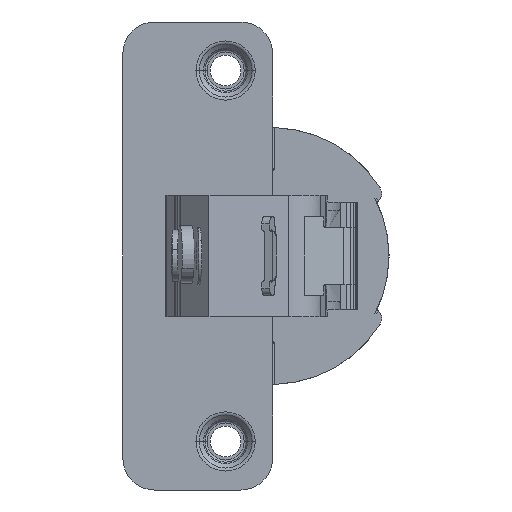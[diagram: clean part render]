
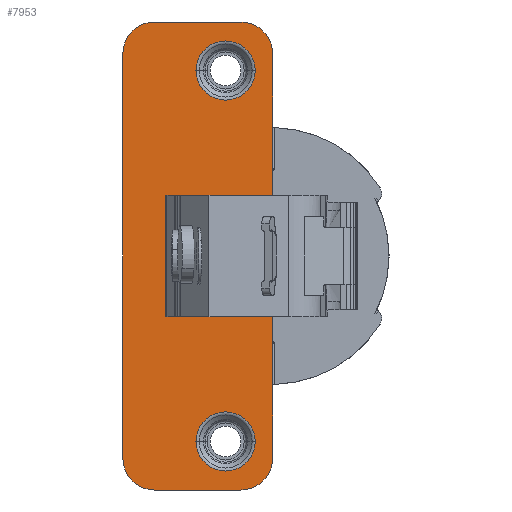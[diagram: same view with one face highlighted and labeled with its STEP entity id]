
A CAD part, left-side view. The second image highlights one B-rep face of the part: STEP entity #7953.
In plain terms, the highlighted planar face has unit normal (-1, 0.002, 0).
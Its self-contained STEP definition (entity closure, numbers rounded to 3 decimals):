
#32 = LINE ( 'NONE', #5459, #1550 ) ;
#245 = LINE ( 'NONE', #3656, #2712 ) ;
#291 = AXIS2_PLACEMENT_3D ( 'NONE', #5991, #6129, #2112 ) ;
#354 = VERTEX_POINT ( 'NONE', #5872 ) ;
#369 = VECTOR ( 'NONE', #6831, 1000. ) ;
#539 = VECTOR ( 'NONE', #5462, 1000. ) ;
#543 = CIRCLE ( 'NONE', #5313, 4.149 ) ;
#557 = CARTESIAN_POINT ( 'NONE',  ( -6.864, 33.682, -7.533 ) ) ;
#580 = DIRECTION ( 'NONE',  ( -0.002, -1., 0. ) ) ;
#610 = CIRCLE ( 'NONE', #5531, 4.464 ) ;
#665 = CARTESIAN_POINT ( 'NONE',  ( -6.883, 23.165, -31.833 ) ) ;
#689 = ORIENTED_EDGE ( 'NONE', *, *, #7732, .F. ) ;
#742 = EDGE_CURVE ( 'NONE', #6070, #4949, #1428, .T. ) ;
#786 = DIRECTION ( 'NONE',  ( -0.002, -1., 0. ) ) ;
#870 = AXIS2_PLACEMENT_3D ( 'NONE', #6635, #4472, #5182 ) ;
#906 = ORIENTED_EDGE ( 'NONE', *, *, #3919, .F. ) ;
#922 = CARTESIAN_POINT ( 'NONE',  ( -6.872, 29.45, -25.033 ) ) ;
#934 = EDGE_CURVE ( 'NONE', #2753, #8649, #245, .T. ) ;
#969 = AXIS2_PLACEMENT_3D ( 'NONE', #4010, #8684, #786 ) ;
#982 = CARTESIAN_POINT ( 'NONE',  ( -6.861, 35.238, -27.37 ) ) ;
#1092 = DIRECTION ( 'NONE',  ( 0., 0., 1. ) ) ;
#1178 = CARTESIAN_POINT ( 'NONE',  ( -6.861, 35.238, -31.833 ) ) ;
#1274 = EDGE_CURVE ( 'NONE', #6781, #2759, #5365, .T. ) ;
#1321 = LINE ( 'NONE', #3401, #539 ) ;
#1326 = ORIENTED_EDGE ( 'NONE', *, *, #1274, .T. ) ;
#1404 = DIRECTION ( 'NONE',  ( -0.002, -1., 0. ) ) ;
#1428 = CIRCLE ( 'NONE', #291, 4.149 ) ;
#1451 = FACE_OUTER_BOUND ( 'NONE', #3281, .T. ) ;
#1477 = CARTESIAN_POINT ( 'NONE',  ( -6.883, 23.165, -27.37 ) ) ;
#1523 = EDGE_CURVE ( 'NONE', #6056, #6183, #610, .T. ) ;
#1550 = VECTOR ( 'NONE', #5593, 1000. ) ;
#1699 = CARTESIAN_POINT ( 'NONE',  ( -6.887, 21.153, -25.033 ) ) ;
#1817 = DIRECTION ( 'NONE',  ( -1., 0.002, 0. ) ) ;
#1870 = EDGE_CURVE ( 'NONE', #2504, #8045, #2580, .T. ) ;
#1925 = EDGE_CURVE ( 'NONE', #7960, #8649, #32, .T. ) ;
#1941 = CARTESIAN_POINT ( 'NONE',  ( -6.872, 29.45, 26.967 ) ) ;
#1979 = ORIENTED_EDGE ( 'NONE', *, *, #5394, .T. ) ;
#2083 = AXIS2_PLACEMENT_3D ( 'NONE', #982, #6416, #3678 ) ;
#2112 = DIRECTION ( 'NONE',  ( -0.002, -1., 0. ) ) ;
#2207 = LINE ( 'NONE', #4144, #369 ) ;
#2235 = ORIENTED_EDGE ( 'NONE', *, *, #7135, .T. ) ;
#2416 = LINE ( 'NONE', #5108, #8704 ) ;
#2452 = VERTEX_POINT ( 'NONE', #3548 ) ;
#2504 = VERTEX_POINT ( 'NONE', #1699 ) ;
#2580 = CIRCLE ( 'NONE', #5964, 4.149 ) ;
#2587 = CARTESIAN_POINT ( 'NONE',  ( -6.861, 35.238, 33.767 ) ) ;
#2615 = CARTESIAN_POINT ( 'NONE',  ( -6.853, 39.702, -27.37 ) ) ;
#2620 = ORIENTED_EDGE ( 'NONE', *, *, #934, .T. ) ;
#2712 = VECTOR ( 'NONE', #4267, 1000. ) ;
#2753 = VERTEX_POINT ( 'NONE', #8631 ) ;
#2759 = VERTEX_POINT ( 'NONE', #2587 ) ;
#2824 = CARTESIAN_POINT ( 'NONE',  ( -6.879, 25.302, -25.033 ) ) ;
#2921 = VECTOR ( 'NONE', #7493, 1000. ) ;
#2985 = CARTESIAN_POINT ( 'NONE',  ( -6.883, 23.165, -31.833 ) ) ;
#3187 = CARTESIAN_POINT ( 'NONE',  ( -6.879, 25.302, -25.033 ) ) ;
#3245 = CARTESIAN_POINT ( 'NONE',  ( -6.891, 18.702, 9.467 ) ) ;
#3281 = EDGE_LOOP ( 'NONE', ( #6084, #6001, #5361, #1326, #5376, #6883, #2235, #1979, #4468, #6518, #2620, #8412 ) ) ;
#3362 = EDGE_LOOP ( 'NONE', ( #8665, #689 ) ) ;
#3401 = CARTESIAN_POINT ( 'NONE',  ( -6.861, 35.238, 9.467 ) ) ;
#3548 = CARTESIAN_POINT ( 'NONE',  ( -6.853, 39.702, 29.303 ) ) ;
#3656 = CARTESIAN_POINT ( 'NONE',  ( -6.861, 35.238, -7.533 ) ) ;
#3662 = DIRECTION ( 'NONE',  ( -0.002, -1., 0. ) ) ;
#3678 = DIRECTION ( 'NONE',  ( -0.002, -1., 0. ) ) ;
#3919 = EDGE_CURVE ( 'NONE', #4949, #6070, #3969, .T. ) ;
#3969 = CIRCLE ( 'NONE', #870, 4.149 ) ;
#4010 = CARTESIAN_POINT ( 'NONE',  ( -6.861, 35.238, 29.303 ) ) ;
#4126 = VERTEX_POINT ( 'NONE', #2615 ) ;
#4144 = CARTESIAN_POINT ( 'NONE',  ( -6.891, 18.702, 29.303 ) ) ;
#4267 = DIRECTION ( 'NONE',  ( 0.002, 1., 0. ) ) ;
#4468 = ORIENTED_EDGE ( 'NONE', *, *, #1523, .T. ) ;
#4472 = DIRECTION ( 'NONE',  ( -1., 0.002, 0. ) ) ;
#4749 = CARTESIAN_POINT ( 'NONE',  ( -6.864, 33.682, 9.467 ) ) ;
#4796 = LINE ( 'NONE', #4929, #2921 ) ;
#4895 = AXIS2_PLACEMENT_3D ( 'NONE', #6965, #7664, #3662 ) ;
#4929 = CARTESIAN_POINT ( 'NONE',  ( -6.853, 39.702, -27.37 ) ) ;
#4949 = VERTEX_POINT ( 'NONE', #1941 ) ;
#5092 = EDGE_CURVE ( 'NONE', #2452, #4126, #4796, .T. ) ;
#5108 = CARTESIAN_POINT ( 'NONE',  ( -6.891, 18.702, 29.303 ) ) ;
#5181 = CIRCLE ( 'NONE', #2083, 4.464 ) ;
#5182 = DIRECTION ( 'NONE',  ( -0.002, -1., 0. ) ) ;
#5313 = AXIS2_PLACEMENT_3D ( 'NONE', #3187, #5864, #580 ) ;
#5361 = ORIENTED_EDGE ( 'NONE', *, *, #7410, .T. ) ;
#5365 = LINE ( 'NONE', #7437, #7218 ) ;
#5372 = FACE_BOUND ( 'NONE', #3362, .T. ) ;
#5376 = ORIENTED_EDGE ( 'NONE', *, *, #7159, .T. ) ;
#5394 = EDGE_CURVE ( 'NONE', #6836, #6056, #7603, .T. ) ;
#5456 = CIRCLE ( 'NONE', #8268, 4.464 ) ;
#5459 = CARTESIAN_POINT ( 'NONE',  ( -6.864, 33.682, 29.303 ) ) ;
#5462 = DIRECTION ( 'NONE',  ( 0.002, 1., 0. ) ) ;
#5466 = VERTEX_POINT ( 'NONE', #3245 ) ;
#5531 = AXIS2_PLACEMENT_3D ( 'NONE', #1477, #6860, #8217 ) ;
#5570 = DIRECTION ( 'NONE',  ( -0.002, -1., 0. ) ) ;
#5593 = DIRECTION ( 'NONE',  ( 0., 0., -1. ) ) ;
#5864 = DIRECTION ( 'NONE',  ( -1., 0.002, 0. ) ) ;
#5872 = CARTESIAN_POINT ( 'NONE',  ( -6.891, 18.702, 29.303 ) ) ;
#5964 = AXIS2_PLACEMENT_3D ( 'NONE', #2824, #8143, #1404 ) ;
#5991 = CARTESIAN_POINT ( 'NONE',  ( -6.879, 25.302, 26.967 ) ) ;
#5996 = PLANE ( 'NONE',  #969 ) ;
#6001 = ORIENTED_EDGE ( 'NONE', *, *, #6327, .T. ) ;
#6056 = VERTEX_POINT ( 'NONE', #665 ) ;
#6070 = VERTEX_POINT ( 'NONE', #6135 ) ;
#6084 = ORIENTED_EDGE ( 'NONE', *, *, #7313, .F. ) ;
#6129 = DIRECTION ( 'NONE',  ( -1., 0.002, 0. ) ) ;
#6135 = CARTESIAN_POINT ( 'NONE',  ( -6.887, 21.153, 26.967 ) ) ;
#6159 = EDGE_LOOP ( 'NONE', ( #8516, #906 ) ) ;
#6183 = VERTEX_POINT ( 'NONE', #7496 ) ;
#6327 = EDGE_CURVE ( 'NONE', #5466, #354, #2207, .T. ) ;
#6416 = DIRECTION ( 'NONE',  ( -1., 0.002, 0. ) ) ;
#6518 = ORIENTED_EDGE ( 'NONE', *, *, #8240, .T. ) ;
#6623 = DIRECTION ( 'NONE',  ( -0.002, -1., 0. ) ) ;
#6635 = CARTESIAN_POINT ( 'NONE',  ( -6.879, 25.302, 26.967 ) ) ;
#6781 = VERTEX_POINT ( 'NONE', #7866 ) ;
#6784 = DIRECTION ( 'NONE',  ( 0.002, 1., 0. ) ) ;
#6830 = FACE_BOUND ( 'NONE', #6159, .T. ) ;
#6831 = DIRECTION ( 'NONE',  ( 0., 0., 1. ) ) ;
#6836 = VERTEX_POINT ( 'NONE', #1178 ) ;
#6860 = DIRECTION ( 'NONE',  ( -1., 0.002, 0. ) ) ;
#6883 = ORIENTED_EDGE ( 'NONE', *, *, #5092, .T. ) ;
#6965 = CARTESIAN_POINT ( 'NONE',  ( -6.883, 23.165, 29.303 ) ) ;
#7135 = EDGE_CURVE ( 'NONE', #4126, #6836, #5181, .T. ) ;
#7159 = EDGE_CURVE ( 'NONE', #2759, #2452, #5456, .T. ) ;
#7218 = VECTOR ( 'NONE', #6784, 1000. ) ;
#7313 = EDGE_CURVE ( 'NONE', #5466, #7960, #1321, .T. ) ;
#7410 = EDGE_CURVE ( 'NONE', #354, #6781, #8694, .T. ) ;
#7437 = CARTESIAN_POINT ( 'NONE',  ( -6.861, 35.238, 33.767 ) ) ;
#7493 = DIRECTION ( 'NONE',  ( 0., 0., -1. ) ) ;
#7496 = CARTESIAN_POINT ( 'NONE',  ( -6.891, 18.702, -27.37 ) ) ;
#7603 = LINE ( 'NONE', #2985, #7837 ) ;
#7664 = DIRECTION ( 'NONE',  ( -1., 0.002, 0. ) ) ;
#7732 = EDGE_CURVE ( 'NONE', #8045, #2504, #543, .T. ) ;
#7837 = VECTOR ( 'NONE', #5570, 1000. ) ;
#7866 = CARTESIAN_POINT ( 'NONE',  ( -6.883, 23.165, 33.767 ) ) ;
#7953 = ADVANCED_FACE ( 'NONE', ( #1451, #6830, #5372 ), #5996, .T. ) ;
#7960 = VERTEX_POINT ( 'NONE', #4749 ) ;
#8045 = VERTEX_POINT ( 'NONE', #922 ) ;
#8143 = DIRECTION ( 'NONE',  ( -1., 0.002, 0. ) ) ;
#8217 = DIRECTION ( 'NONE',  ( -0.002, -1., 0. ) ) ;
#8240 = EDGE_CURVE ( 'NONE', #6183, #2753, #2416, .T. ) ;
#8268 = AXIS2_PLACEMENT_3D ( 'NONE', #8602, #1817, #6623 ) ;
#8412 = ORIENTED_EDGE ( 'NONE', *, *, #1925, .F. ) ;
#8516 = ORIENTED_EDGE ( 'NONE', *, *, #742, .F. ) ;
#8602 = CARTESIAN_POINT ( 'NONE',  ( -6.861, 35.238, 29.303 ) ) ;
#8631 = CARTESIAN_POINT ( 'NONE',  ( -6.891, 18.702, -7.533 ) ) ;
#8649 = VERTEX_POINT ( 'NONE', #557 ) ;
#8665 = ORIENTED_EDGE ( 'NONE', *, *, #1870, .F. ) ;
#8684 = DIRECTION ( 'NONE',  ( -1., 0.002, 0. ) ) ;
#8694 = CIRCLE ( 'NONE', #4895, 4.464 ) ;
#8704 = VECTOR ( 'NONE', #1092, 1000. ) ;
